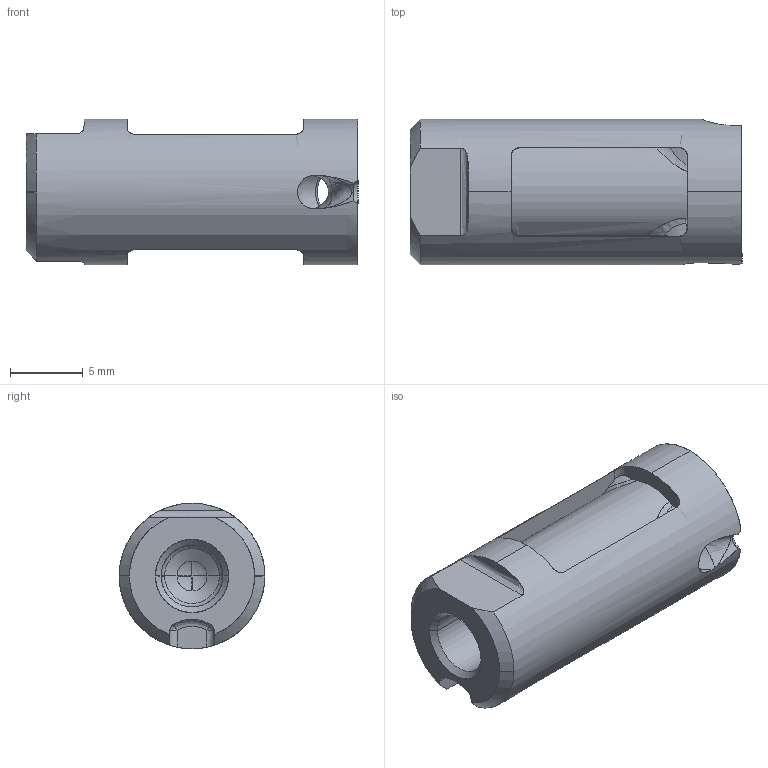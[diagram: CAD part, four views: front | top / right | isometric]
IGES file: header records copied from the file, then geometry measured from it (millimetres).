
Start section: START RECORD GO HERE.
Global section: file name: tgr10-12-s1.igs; native system: DASSAULT SYSTEMES CATIA V5 R20 - www.3ds.com; preprocessor: CATIA Version 5 Release 20 ; author: Utente; organization: NB04-ASUS; date: 20200417.224111; units: millimetre
Bounding box: 22.8 x 10 x 10 mm (x, y, z)
Surface area: 1441.1 mm2 (no closed solid volume)
Topology: 0 solids, 0 shells, 90 faces, 547 edges, 541 vertices
Faces by surface type: revolution 51, bspline 20, plane 19
